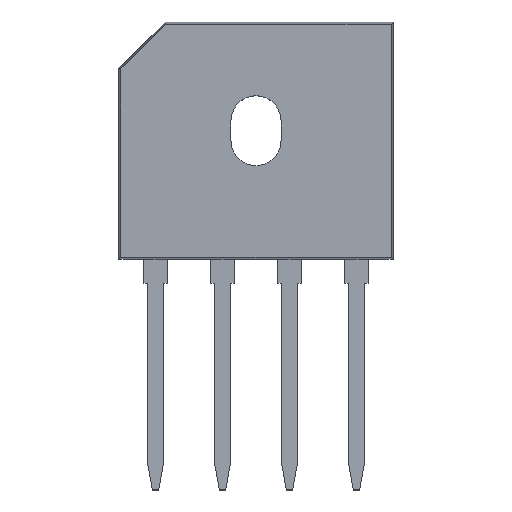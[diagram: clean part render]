
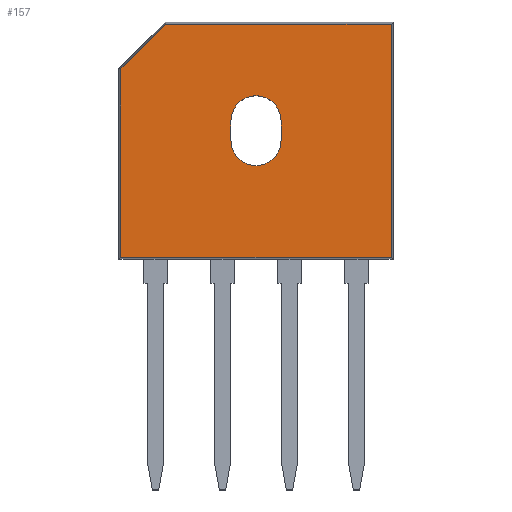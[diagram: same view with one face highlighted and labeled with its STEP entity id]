
A CAD part, top view. The second image highlights one B-rep face of the part: STEP entity #157.
In plain terms, the highlighted planar face has unit normal (0, 0, 1).
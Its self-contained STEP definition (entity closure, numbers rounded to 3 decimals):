
#103=FACE_BOUND('',#405,.T.);
#104=FACE_BOUND('',#406,.T.);
#110=CIRCLE('',#1635,1.9);
#112=CIRCLE('',#1639,1.9);
#157=ADVANCED_FACE('',(#103,#104),#239,.T.);
#239=PLANE('',#1668);
#405=EDGE_LOOP('',(#653,#654,#655,#656));
#406=EDGE_LOOP('',(#657,#658,#659,#660,#661));
#653=ORIENTED_EDGE('',*,*,#1051,.F.);
#654=ORIENTED_EDGE('',*,*,#1042,.T.);
#655=ORIENTED_EDGE('',*,*,#1046,.T.);
#656=ORIENTED_EDGE('',*,*,#1049,.T.);
#657=ORIENTED_EDGE('',*,*,#1131,.T.);
#658=ORIENTED_EDGE('',*,*,#1132,.T.);
#659=ORIENTED_EDGE('',*,*,#1133,.T.);
#660=ORIENTED_EDGE('',*,*,#1036,.T.);
#661=ORIENTED_EDGE('',*,*,#1033,.T.);
#885=VERTEX_POINT('',#2154);
#888=VERTEX_POINT('',#2159);
#890=VERTEX_POINT('',#2164);
#895=VERTEX_POINT('',#2178);
#896=VERTEX_POINT('',#2180);
#898=VERTEX_POINT('',#2186);
#900=VERTEX_POINT('',#2192);
#957=VERTEX_POINT('',#2358);
#958=VERTEX_POINT('',#2362);
#1033=EDGE_CURVE('',#885,#888,#1242,.T.);
#1036=EDGE_CURVE('',#890,#885,#1245,.T.);
#1042=EDGE_CURVE('',#896,#895,#110,.T.);
#1046=EDGE_CURVE('',#895,#898,#1253,.T.);
#1049=EDGE_CURVE('',#898,#900,#112,.T.);
#1051=EDGE_CURVE('',#896,#900,#1256,.T.);
#1131=EDGE_CURVE('',#888,#957,#1336,.T.);
#1132=EDGE_CURVE('',#957,#958,#1337,.T.);
#1133=EDGE_CURVE('',#958,#890,#1338,.T.);
#1242=LINE('',#2160,#1447);
#1245=LINE('',#2166,#1450);
#1253=LINE('',#2187,#1458);
#1256=LINE('',#2196,#1461);
#1336=LINE('',#2359,#1541);
#1337=LINE('',#2361,#1542);
#1338=LINE('',#2363,#1543);
#1447=VECTOR('',#1765,1.);
#1450=VECTOR('',#1770,1.);
#1458=VECTOR('',#1788,1.);
#1461=VECTOR('',#1799,1.);
#1541=VECTOR('',#1931,1.);
#1542=VECTOR('',#1934,1.);
#1543=VECTOR('',#1935,1.);
#1635=AXIS2_PLACEMENT_3D('',#2179,#1781,#1782);
#1639=AXIS2_PLACEMENT_3D('',#2193,#1794,#1795);
#1668=AXIS2_PLACEMENT_3D('',#2364,#1936,#1937);
#1765=DIRECTION('',(-0.707,-0.707,0.));
#1770=DIRECTION('',(-1.,0.,0.));
#1781=DIRECTION('',(0.,0.,-1.));
#1782=DIRECTION('',(-1.,0.,0.));
#1788=DIRECTION('',(0.,1.,0.));
#1794=DIRECTION('',(0.,0.,-1.));
#1795=DIRECTION('',(-1.,0.,0.));
#1799=DIRECTION('',(0.,1.,0.));
#1931=DIRECTION('',(0.,-1.,0.));
#1934=DIRECTION('',(1.,0.,0.));
#1935=DIRECTION('',(0.,1.,0.));
#1936=DIRECTION('',(0.,0.,1.));
#1937=DIRECTION('',(1.,0.,0.));
#2154=CARTESIAN_POINT('',(4.395,34.143,2.3));
#2159=CARTESIAN_POINT('',(0.987,30.735,2.3));
#2160=CARTESIAN_POINT('',(3.391,33.139,2.3));
#2164=CARTESIAN_POINT('',(21.473,34.143,2.3));
#2166=CARTESIAN_POINT('',(11.23,34.143,2.3));
#2178=CARTESIAN_POINT('',(9.33,25.3,2.3));
#2179=CARTESIAN_POINT('',(11.23,25.3,2.3));
#2180=CARTESIAN_POINT('',(13.13,25.3,2.3));
#2186=CARTESIAN_POINT('',(9.33,26.8,2.3));
#2187=CARTESIAN_POINT('',(9.33,25.3,2.3));
#2192=CARTESIAN_POINT('',(13.13,26.8,2.3));
#2193=CARTESIAN_POINT('',(11.23,26.8,2.3));
#2196=CARTESIAN_POINT('',(13.13,25.3,2.3));
#2358=CARTESIAN_POINT('',(0.987,16.457,2.3));
#2359=CARTESIAN_POINT('',(0.987,25.3,2.3));
#2361=CARTESIAN_POINT('',(11.23,16.457,2.3));
#2362=CARTESIAN_POINT('',(21.473,16.457,2.3));
#2363=CARTESIAN_POINT('',(21.473,25.3,2.3));
#2364=CARTESIAN_POINT('',(11.23,25.3,2.3));
